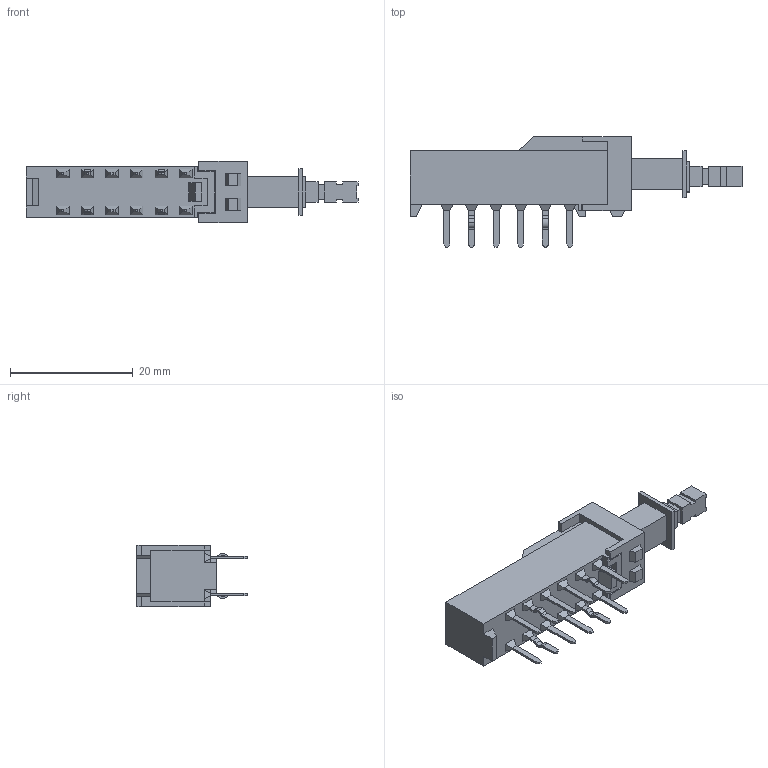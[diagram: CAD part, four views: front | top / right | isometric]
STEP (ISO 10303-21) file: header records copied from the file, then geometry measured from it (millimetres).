
FILE_DESCRIPTION (( 'STEP AP214' ), '1' );
FILE_NAME ('SPUN19C400.STEP', '2011-06-01T05:35:52', ( '' ), ( '' ), 'SwSTEP 2.0', 'SolidWorks 2007', '' );
FILE_SCHEMA (( 'AUTOMOTIVE_DESIGN' ));
Length unit declared in the file: millimetre
Products named in the file (1): SPUN19C400
Bounding box: 54 x 18 x 10 mm (x, y, z)
Volume: 3434.8 mm3; surface area: 2341.3 mm2
Topology: 1 solids, 1 shells, 274 faces, 698 edges, 448 vertices
Faces by surface type: plane 246, cylinder 28
Entity records: 11119 total; most frequent: CARTESIAN_POINT 1421, ORIENTED_EDGE 1396, DIRECTION 1304, EDGE_CURVE 698, VECTOR 642, LINE 642, VERTEX_POINT 448, AXIS2_PLACEMENT_3D 331
